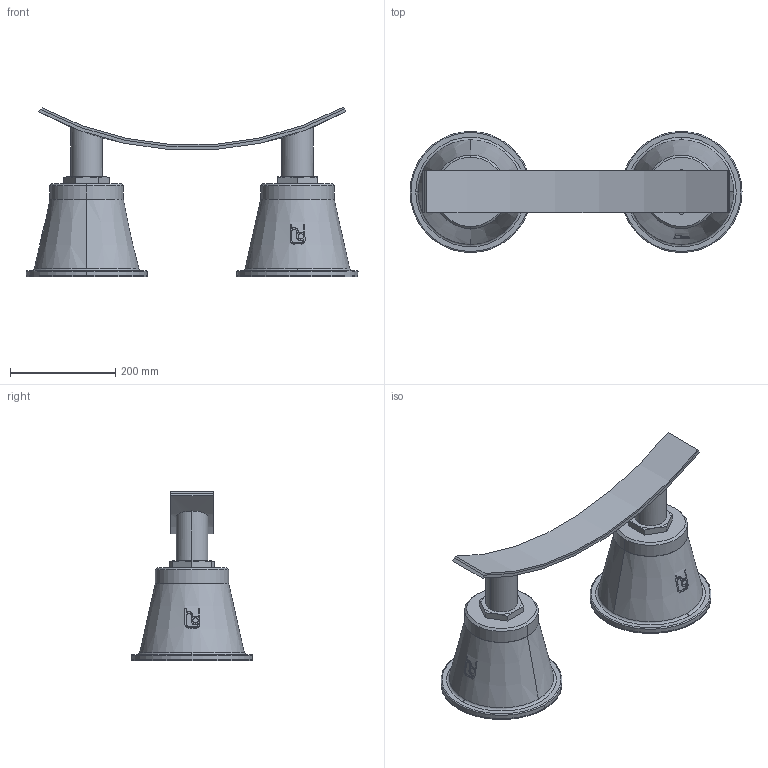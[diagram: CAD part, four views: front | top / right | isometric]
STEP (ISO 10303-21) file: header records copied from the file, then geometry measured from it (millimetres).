
FILE_DESCRIPTION(('STEP AP214'),'1');
FILE_NAME('RSRFN-DUO_DN1200.stp','2018-06-29T13:49:44',(' '),(' '),'Spatial InterOp 3D',' ',' ');
FILE_SCHEMA(('automotive_design'));
Length unit declared in the file: millimetre
Products named in the file (10): 1; 2; 3; 4; 5; 6; 7; 8; 9; 10
Bounding box: 630 x 230 x 322.18 mm (x, y, z)
Volume: 10091661 mm3; surface area: 880260.4 mm2
Topology: 10 solids, 11 shells, 204 faces, 494 edges, 322 vertices
Faces by surface type: cylinder 81, plane 81, cone 34, torus 8
Entity records: 9071 total; most frequent: CARTESIAN_POINT 2466, DIRECTION 1010, ORIENTED_EDGE 988, EDGE_CURVE 494, AXIS2_PLACEMENT_3D 394, VERTEX_POINT 322, LINE 222, VECTOR 222
